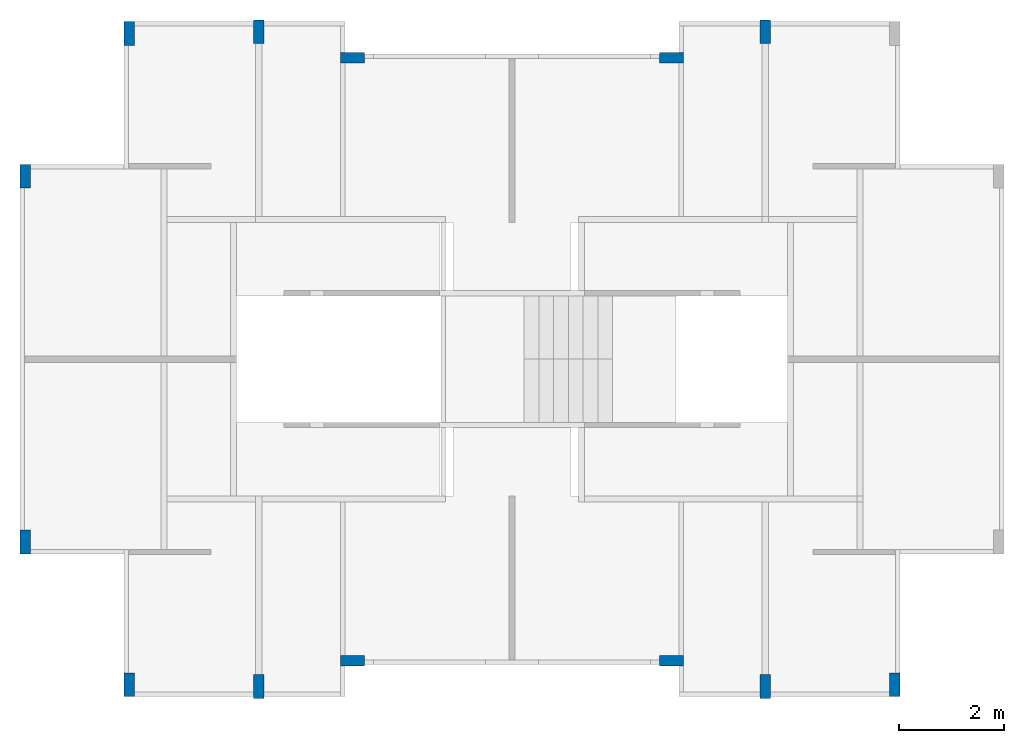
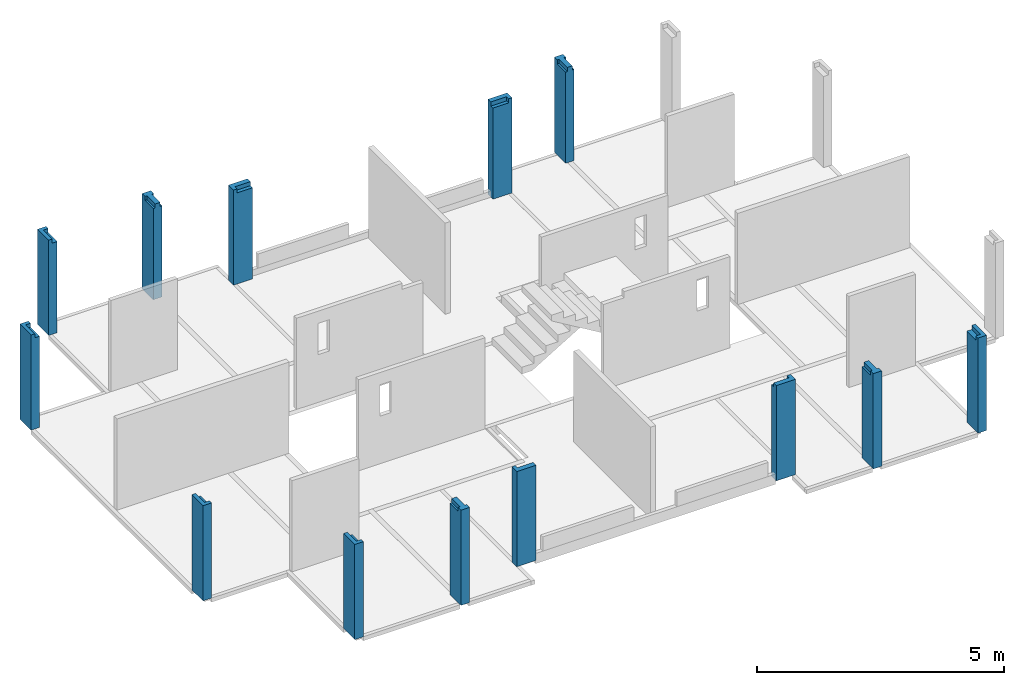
# One storey, part 5 of 6: 14 columns.
"""IFC4 building model written with IfcOpenShell, lengths in metres."""

from ifc_helpers import new_model, entity, si_unit, converted_unit, derived_unit, direction, frame, origin, place, context, subcontext, project, spatial, polygons, source, transform, mapped, material, type_object, type_shapes, element, save


model = new_model("IFC4")

# Units and contexts
model_context = context("Model", 3, precision=1e-05, world=origin(), true_north=direction((6.123031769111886e-17, 1.0)))
body_context = subcontext(model_context, "Body", "Model", "MODEL_VIEW")
ifc_project = project(units=[si_unit("LENGTHUNIT", "METRE"), si_unit("AREAUNIT", "SQUARE_METRE"), si_unit("VOLUMEUNIT", "CUBIC_METRE"), converted_unit("PLANEANGLEUNIT", "DEGREE", entity("IfcRatioMeasure", 0.017453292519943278), si_unit("PLANEANGLEUNIT", "RADIAN"), dimensions=[0, 0, 0, 0, 0, 0, 0]), si_unit("MASSUNIT", "GRAM", prefix="KILO"), derived_unit("MASSDENSITYUNIT", [(si_unit("MASSUNIT", "GRAM", prefix="KILO"), 1), (si_unit("LENGTHUNIT", "METRE"), -3)]), derived_unit("IONCONCENTRATIONUNIT", [(si_unit("MASSUNIT", "GRAM", prefix="KILO"), 1), (si_unit("LENGTHUNIT", "METRE"), -3)]), derived_unit("MOMENTOFINERTIAUNIT", [(si_unit("LENGTHUNIT", "METRE"), 4)]), si_unit("TIMEUNIT", "SECOND"), si_unit("FREQUENCYUNIT", "HERTZ"), si_unit("THERMODYNAMICTEMPERATUREUNIT", "DEGREE_CELSIUS"), derived_unit("THERMALTRANSMITTANCEUNIT", [(si_unit("MASSUNIT", "GRAM", prefix="KILO"), 1), (si_unit("THERMODYNAMICTEMPERATUREUNIT", "KELVIN"), -1), (si_unit("TIMEUNIT", "SECOND"), -3)]), derived_unit("THERMALCONDUCTANCEUNIT", [(si_unit("MASSUNIT", "GRAM", prefix="KILO"), 1), (si_unit("THERMODYNAMICTEMPERATUREUNIT", "KELVIN"), -1), (si_unit("TIMEUNIT", "SECOND"), -3), (si_unit("LENGTHUNIT", "METRE"), 1)]), derived_unit("VOLUMETRICFLOWRATEUNIT", [(si_unit("LENGTHUNIT", "METRE"), 3), (si_unit("TIMEUNIT", "SECOND"), -1)]), derived_unit("MASSFLOWRATEUNIT", [(si_unit("MASSUNIT", "GRAM", prefix="KILO"), 1), (si_unit("TIMEUNIT", "SECOND"), -1)]), derived_unit("ROTATIONALFREQUENCYUNIT", [(si_unit("TIMEUNIT", "SECOND"), -1)]), si_unit("ELECTRICCURRENTUNIT", "AMPERE"), si_unit("ELECTRICVOLTAGEUNIT", "VOLT"), si_unit("POWERUNIT", "WATT"), si_unit("FORCEUNIT", "NEWTON", prefix="KILO"), si_unit("ILLUMINANCEUNIT", "LUX"), si_unit("LUMINOUSFLUXUNIT", "LUMEN"), si_unit("LUMINOUSINTENSITYUNIT", "CANDELA"), derived_unit("USERDEFINED", [(si_unit("MASSUNIT", "GRAM", prefix="KILO"), -1), (si_unit("LENGTHUNIT", "METRE"), -2), (si_unit("TIMEUNIT", "SECOND"), 3), (si_unit("LUMINOUSFLUXUNIT", "LUMEN"), 1)]), derived_unit("USERDEFINED", [(si_unit("MASSUNIT", "GRAM", prefix="KILO"), 1), (si_unit("TIMEUNIT", "SECOND"), -3), (si_unit("LENGTHUNIT", "METRE"), 3), (si_unit("ELECTRICCURRENTUNIT", "AMPERE"), -2)]), derived_unit("SOUNDPOWERUNIT", [(si_unit("MASSUNIT", "GRAM", prefix="KILO"), 1), (si_unit("TIMEUNIT", "SECOND"), -3), (si_unit("LENGTHUNIT", "METRE"), 2)]), derived_unit("SOUNDPRESSUREUNIT", [(si_unit("MASSUNIT", "GRAM", prefix="KILO"), 1), (si_unit("LENGTHUNIT", "METRE"), -1), (si_unit("TIMEUNIT", "SECOND"), -2)]), derived_unit("LINEARVELOCITYUNIT", [(si_unit("LENGTHUNIT", "METRE"), 1), (si_unit("TIMEUNIT", "SECOND"), -1)]), si_unit("PRESSUREUNIT", "PASCAL"), derived_unit("USERDEFINED", [(si_unit("MASSUNIT", "GRAM", prefix="KILO"), 1), (si_unit("LENGTHUNIT", "METRE"), -2), (si_unit("TIMEUNIT", "SECOND"), -2)]), derived_unit("LINEARFORCEUNIT", [(si_unit("MASSUNIT", "GRAM", prefix="KILO"), 1), (si_unit("TIMEUNIT", "SECOND"), -2)]), derived_unit("PLANARFORCEUNIT", [(si_unit("MASSUNIT", "GRAM", prefix="KILO"), 1), (si_unit("LENGTHUNIT", "METRE"), -1), (si_unit("TIMEUNIT", "SECOND"), -2)]), derived_unit("SPECIFICHEATCAPACITYUNIT", [(si_unit("THERMODYNAMICTEMPERATUREUNIT", "KELVIN"), -1), (si_unit("LENGTHUNIT", "METRE"), 2), (si_unit("TIMEUNIT", "SECOND"), -2)]), derived_unit("HEATINGVALUEUNIT", [(si_unit("LENGTHUNIT", "METRE"), 2), (si_unit("TIMEUNIT", "SECOND"), -2)]), derived_unit("VAPORPERMEABILITYUNIT", [(si_unit("LENGTHUNIT", "METRE"), -1), (si_unit("TIMEUNIT", "SECOND"), 1)]), derived_unit("DYNAMICVISCOSITYUNIT", [(si_unit("MASSUNIT", "GRAM", prefix="KILO"), 1), (si_unit("TIMEUNIT", "SECOND"), -1), (si_unit("LENGTHUNIT", "METRE"), -1)]), derived_unit("THERMALEXPANSIONCOEFFICIENTUNIT", [(si_unit("THERMODYNAMICTEMPERATUREUNIT", "KELVIN"), -1)]), derived_unit("MODULUSOFELASTICITYUNIT", [(si_unit("MASSUNIT", "GRAM", prefix="KILO"), 1), (si_unit("LENGTHUNIT", "METRE"), -1), (si_unit("TIMEUNIT", "SECOND"), -2)]), derived_unit("ISOTHERMALMOISTURECAPACITYUNIT", [(si_unit("LENGTHUNIT", "METRE"), 3), (si_unit("MASSUNIT", "GRAM", prefix="KILO"), -1)]), derived_unit("MOISTUREDIFFUSIVITYUNIT", [(si_unit("TIMEUNIT", "SECOND"), -1), (si_unit("LENGTHUNIT", "METRE"), 2)])], contexts=[model_context])

# Site, building, storey
site_placement = place(None, origin())
site = spatial("IfcSite", under=ifc_project, at=site_placement, Name="Default", CompositionType="ELEMENT")
building_placement = place(site_placement, origin())
building = spatial("IfcBuilding", under=site, at=building_placement, Name="Las nubes", CompositionType="ELEMENT")
storey_placement = place(building_placement, frame((0.0, 0.0, 7.050000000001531)))
storey = spatial("IfcBuildingStorey", under=building, at=storey_placement, Name="PISO 4", CompositionType="ELEMENT", Elevation=7.050000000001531)

# Columns
ifc_material = material(Name="Concrete, Cast-in-Place gray", Category="Materials")
column_type_1 = type_object("IfcColumnType", Name="M_Concrete-Rectangular-Column:300 x 450mm", PredefinedType="COLUMN", material=ifc_material)
shared_shape_1 = source(origin(), body_context, "Body", "Tessellation", [
    polygons([(0.19999999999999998, 0.45000000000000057, 0.0), (0.19999999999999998, 5.414335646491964e-16, 0.0), (0.0, 5.414335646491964e-16, 0.0), (0.0, 0.45000000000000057, 0.0), (0.19999999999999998, 0.45000000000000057, 2.250000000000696), (0.19999999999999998, 0.45000000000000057, 2.3500000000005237), (0.19999999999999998, 0.36499999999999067, 2.3500000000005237), (0.19999999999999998, 0.36499999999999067, 2.250000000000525), (0.19999999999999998, 5.414335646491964e-16, 2.250000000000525), (0.08499999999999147, 5.414335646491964e-16, 2.250000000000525), (0.08499999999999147, 5.414335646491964e-16, 2.3500000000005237), (0.0, 5.414335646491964e-16, 2.3500000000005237), (0.0, 5.414335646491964e-16, 2.250000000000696), (0.0, 0.45000000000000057, 2.3500000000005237), (0.08499999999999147, 0.36499999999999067, 2.3500000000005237), (0.08499999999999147, 0.36499999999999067, 2.250000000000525)], [[[1, 2, 3, 4]], [[2, 1, 5, 6, 7, 8, 9]], [[3, 2, 9, 10, 11, 12, 13]], [[4, 3, 13, 12, 14]], [[1, 4, 14, 6, 5]], [[14, 12, 11, 15, 7, 6]], [[8, 16, 10, 9]], [[16, 15, 11, 10]], [[15, 16, 8, 7]]], closed=True),
])
type_shapes(column_type_1, [shared_shape_1])
column_1_placement = place(storey_placement, frame((-0.027499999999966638, -3.175000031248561, 0.0)))
element("IfcColumn", 1, at=column_1_placement, inside=storey, type_object=column_type_1, material=ifc_material, Name="M_Concrete-Rectangular-Column:300 x 450mm", ObjectType="M_Concrete-Rectangular-Column:300 x 450mm", PredefinedType="COLUMN", context=body_context, shape_type="MappedRepresentation", body=[
    mapped(shared_shape_1, transform((0.0, 0.0, 0.0), scale=1.0)),
])
column_type_2 = type_object("IfcColumnType", Name="M_Concrete-Rectangular-Column:300 x 450mm", PredefinedType="COLUMN", material=ifc_material)
shared_shape_2 = source(origin(), body_context, "Body", "Tessellation", [
    polygons([(0.19999999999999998, 0.45000000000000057, 0.0), (0.19999999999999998, 0.0, 0.0), (0.0, 0.0, 0.0), (0.0, 0.45000000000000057, 0.0), (0.19999999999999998, 0.45000000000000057, 2.250000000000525), (0.19999999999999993, 0.08499488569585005, 2.250000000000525), (0.19999999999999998, 0.08499488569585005, 2.3500000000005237), (0.19999999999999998, 0.0, 2.3500000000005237), (0.19999999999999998, 0.0, 2.250000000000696), (0.0, 0.0, 2.3500000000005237), (0.0, 0.45000000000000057, 2.3500000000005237), (0.0, 0.45000000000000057, 2.250000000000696), (0.08500000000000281, 0.45000000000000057, 2.3500000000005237), (0.08500000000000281, 0.45000000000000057, 2.250000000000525), (0.08500000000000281, 0.08499488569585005, 2.3500000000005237), (0.08500000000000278, 0.08499488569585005, 2.250000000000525)], [[[1, 2, 3, 4]], [[2, 1, 5, 6, 7, 8, 9]], [[3, 2, 9, 8, 10]], [[4, 3, 10, 11, 12]], [[1, 4, 12, 11, 13, 14, 5]], [[10, 8, 7, 15, 13, 11]], [[14, 16, 6, 5]], [[16, 15, 7, 6]], [[15, 16, 14, 13]]], closed=True),
])
type_shapes(column_type_2, [shared_shape_2])
column_2_placement = place(storey_placement, frame((-0.02749999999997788, -10.124994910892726, 0.0)))
element("IfcColumn", 2, at=column_2_placement, inside=storey, type_object=column_type_2, material=ifc_material, Name="M_Concrete-Rectangular-Column:300 x 450mm", ObjectType="M_Concrete-Rectangular-Column:300 x 450mm", PredefinedType="COLUMN", context=body_context, shape_type="MappedRepresentation", body=[
    mapped(shared_shape_2, transform((0.0, 0.0, 0.0), scale=1.0)),
])
column_type_3 = type_object("IfcColumnType", Name="M_Concrete-Rectangular-Column:300 x 450mm", PredefinedType="COLUMN", material=ifc_material)
shared_shape_3 = source(origin(), body_context, "Body", "Tessellation", [
    polygons([(0.2, 0.45, 0.0), (0.2, 6.767919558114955e-17, 0.0), (0.0, 6.767919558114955e-17, 0.0), (0.0, 0.45, 0.0), (0.2, 0.45, 2.3500000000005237), (0.2, 0.3649999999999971, 2.3500000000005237), (0.2, 0.3649999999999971, 2.250000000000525), (0.2, 6.767919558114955e-17, 2.250000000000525), (0.08500000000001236, 6.767919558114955e-17, 2.250000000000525), (0.08500000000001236, 6.767919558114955e-17, 2.3500000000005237), (0.0, 6.767919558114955e-17, 2.3500000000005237), (0.0, 6.767919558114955e-17, 2.250000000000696), (0.0, 0.45, 2.3500000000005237), (0.08500000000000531, 0.3649999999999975, 2.3500000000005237), (0.08500000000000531, 0.3649999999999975, 2.250000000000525)], [[[1, 2, 3, 4]], [[2, 1, 5, 6, 7, 8]], [[3, 2, 8, 9, 10, 11, 12]], [[4, 3, 12, 11, 13]], [[1, 4, 13, 5]], [[13, 11, 10, 14, 6, 5]], [[15, 9, 8, 7]], [[14, 15, 7, 6]], [[15, 14, 10, 9]]], closed=True),
])
type_shapes(column_type_3, [shared_shape_3])
column_3_placement = place(storey_placement, frame((1.94749999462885, -0.46000002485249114, 0.0)))
element("IfcColumn", 3, at=column_3_placement, inside=storey, type_object=column_type_3, material=ifc_material, Name="M_Concrete-Rectangular-Column:300 x 450mm", ObjectType="M_Concrete-Rectangular-Column:300 x 450mm", PredefinedType="COLUMN", context=body_context, shape_type="MappedRepresentation", body=[
    mapped(shared_shape_3, transform((0.0, 0.0, 0.0), scale=1.0)),
])
column_type_4 = type_object("IfcColumnType", Name="M_Concrete-Rectangular-Column:300 x 450mm", PredefinedType="COLUMN", material=ifc_material)
shared_shape_4 = source(origin(), body_context, "Body", "Tessellation", [
    polygons([(0.2, 0.45000000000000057, 0.0), (0.2, 6.09112760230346e-16, 0.0), (0.0, 6.09112760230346e-16, 0.0), (0.0, 0.45000000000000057, 0.0), (0.2, 0.45000000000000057, 2.3500000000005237), (0.2, 0.42002052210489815, 2.3500000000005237), (0.2, 0.3350000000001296, 2.3500000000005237), (0.2, 0.3350000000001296, 2.250000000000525), (0.2, 6.09112760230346e-16, 2.250000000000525), (0.15749999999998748, 3.383959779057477e-16, 2.250000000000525), (0.15749999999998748, 6.09112760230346e-16, 2.3500000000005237), (0.04249999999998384, 6.09112760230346e-16, 2.3500000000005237), (0.04249999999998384, 6.09112760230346e-16, 2.250000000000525), (0.0, 6.09112760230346e-16, 2.250000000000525), (0.0, 0.33500000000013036, 2.250000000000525), (0.0, 0.33500000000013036, 2.3500000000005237), (0.0, 0.4200205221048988, 2.3500000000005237), (0.0, 0.45000000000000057, 2.3500000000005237), (0.042499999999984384, 0.3350000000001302, 2.3500000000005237), (0.15749999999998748, 0.3350000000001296, 2.3500000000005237), (0.042499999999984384, 0.3350000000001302, 2.250000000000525), (0.15749999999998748, 0.3350000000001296, 2.250000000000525)], [[[1, 2, 3, 4]], [[2, 1, 5, 6, 7, 8, 9]], [[3, 2, 9, 10, 11, 12, 13, 14]], [[4, 3, 14, 15, 16, 17, 18]], [[1, 4, 18, 5]], [[5, 18, 17, 16, 19, 12, 11, 20, 7, 6]], [[13, 21, 15, 14]], [[21, 19, 16, 15]], [[19, 21, 13, 12]], [[8, 22, 10, 9]], [[22, 20, 11, 10]], [[20, 22, 8, 7]]], closed=True),
])
type_shapes(column_type_4, [shared_shape_4])
column_4_placement = place(storey_placement, frame((4.409999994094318, -0.4300000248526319, 0.0)))
element("IfcColumn", 4, at=column_4_placement, inside=storey, type_object=column_type_4, material=ifc_material, Name="M_Concrete-Rectangular-Column:300 x 450mm", ObjectType="M_Concrete-Rectangular-Column:300 x 450mm", PredefinedType="COLUMN", context=body_context, shape_type="MappedRepresentation", body=[
    mapped(shared_shape_4, transform((0.0, 0.0, 0.0), scale=1.0)),
])
column_type_5 = type_object("IfcColumnType", Name="M_Concrete-Rectangular-Column:300 x 450mm", PredefinedType="COLUMN", material=ifc_material)
shared_shape_5 = source(origin(), body_context, "Body", "Tessellation", [
    polygons([(2.1657342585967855e-15, 0.20000000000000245, 0.0), (0.45000000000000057, 0.2, 0.0), (0.45000000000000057, 0.0, 0.0), (1.0828671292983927e-15, 2.436451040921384e-15, 0.0), (1.0828671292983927e-15, 0.20000000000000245, 2.250000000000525), (2.1657342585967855e-15, 0.20000000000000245, 2.3500000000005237), (0.08500000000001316, 0.2000000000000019, 2.3500000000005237), (0.45000000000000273, 0.2, 2.3500000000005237), (0.45000000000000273, 0.08500000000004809, 2.3500000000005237), (0.45000000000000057, 0.08500000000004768, 2.250000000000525), (0.45000000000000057, 0.0, 2.250000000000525), (0.08500000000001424, 1.7596590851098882e-15, 2.250000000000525), (0.08500000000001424, 2.0303758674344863e-15, 2.3500000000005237), (1.0828671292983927e-15, 2.436451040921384e-15, 2.3500000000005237), (1.0828671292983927e-15, 2.436451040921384e-15, 2.250000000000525), (0.08500000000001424, 0.08500000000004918, 2.3500000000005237), (0.08500000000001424, 0.08500000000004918, 2.250000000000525)], [[[1, 2, 3, 4]], [[2, 1, 5, 6, 7, 8]], [[3, 2, 8, 9, 10, 11]], [[4, 3, 11, 12, 13, 14, 15]], [[1, 4, 15, 14, 6, 5]], [[8, 7, 6, 14, 13, 16, 9]], [[10, 17, 12, 11]], [[17, 16, 13, 12]], [[16, 17, 10, 9]]], closed=True),
])
type_shapes(column_type_5, [shared_shape_5])
column_5_placement = place(storey_placement, frame((6.067499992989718, -0.7950000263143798, 0.0)))
element("IfcColumn", 5, at=column_5_placement, inside=storey, type_object=column_type_5, material=ifc_material, Name="M_Concrete-Rectangular-Column:300 x 450mm", ObjectType="M_Concrete-Rectangular-Column:300 x 450mm", PredefinedType="COLUMN", context=body_context, shape_type="MappedRepresentation", body=[
    mapped(shared_shape_5, transform((0.0, 0.0, 0.0), scale=1.0)),
])
column_type_6 = type_object("IfcColumnType", Name="M_Concrete-Rectangular-Column:300 x 450mm", PredefinedType="COLUMN", material=ifc_material)
shared_shape_6 = source(origin(), body_context, "Body", "Tessellation", [
    polygons([(0.0, 6.09112760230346e-16, 0.0), (0.0, 0.45000000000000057, 0.0), (0.2, 0.45000000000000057, 0.0), (0.2, 6.09112760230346e-16, 0.0), (0.0, 6.09112760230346e-16, 2.250000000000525), (0.0, 0.3350000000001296, 2.250000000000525), (0.0, 0.3350000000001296, 2.3500000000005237), (0.0, 0.41999999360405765, 2.3500000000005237), (0.0, 0.45000000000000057, 2.3500000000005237), (0.2, 6.09112760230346e-16, 2.250000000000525), (0.15749999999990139, 3.383959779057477e-16, 2.250000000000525), (0.15749999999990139, 5.414335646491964e-16, 2.3500000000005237), (0.04249999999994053, 6.09112760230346e-16, 2.3500000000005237), (0.04249999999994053, 3.383959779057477e-16, 2.250000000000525), (0.2, 0.45000000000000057, 2.3500000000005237), (0.2, 0.41999999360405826, 2.3500000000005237), (0.2, 0.33500000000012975, 2.3500000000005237), (0.2, 0.33500000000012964, 2.250000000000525), (0.04249999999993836, 0.3350000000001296, 2.3500000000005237), (0.15749999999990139, 0.3350000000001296, 2.3500000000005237), (0.04249999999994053, 0.3350000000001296, 2.250000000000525), (0.15749999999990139, 0.3350000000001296, 2.250000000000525)], [[[1, 2, 3, 4]], [[2, 1, 5, 6, 7, 8, 9]], [[1, 4, 10, 11, 12, 13, 14, 5]], [[4, 3, 15, 16, 17, 18, 10]], [[3, 2, 9, 15]], [[15, 9, 8, 7, 19, 13, 12, 20, 17, 16]], [[14, 21, 6, 5]], [[21, 19, 7, 6]], [[19, 21, 14, 13]], [[18, 22, 11, 10]], [[20, 22, 18, 17]], [[22, 20, 12, 11]]], closed=True),
])
type_shapes(column_type_6, [shared_shape_6])
column_6_placement = place(storey_placement, frame((14.035000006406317, -0.4300000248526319, 0.0)))
element("IfcColumn", 6, at=column_6_placement, inside=storey, type_object=column_type_6, material=ifc_material, Name="M_Concrete-Rectangular-Column:300 x 450mm", ObjectType="M_Concrete-Rectangular-Column:300 x 450mm", PredefinedType="COLUMN", context=body_context, shape_type="MappedRepresentation", body=[
    mapped(shared_shape_6, transform((0.0, 0.0, 0.0), scale=1.0)),
])
column_type_7 = type_object("IfcColumnType", Name="M_Concrete-Rectangular-Column:300 x 450mm", PredefinedType="COLUMN", material=ifc_material)
shared_shape_7 = source(origin(), body_context, "Body", "Tessellation", [
    polygons([(0.0, 0.2, 0.0), (0.4500000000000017, 0.20000000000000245, 0.0), (0.4500000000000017, 2.436451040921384e-15, 0.0), (0.0, 0.0, 0.0), (0.0, 0.2, 2.3500000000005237), (0.364999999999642, 0.2000000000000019, 2.3500000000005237), (0.4500000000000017, 0.20000000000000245, 2.3500000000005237), (0.4500000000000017, 0.20000000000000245, 2.250000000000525), (0.0, 0.0, 2.250000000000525), (0.0, 0.08500000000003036, 2.250000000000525), (0.0, 0.08500000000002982, 2.3500000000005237), (0.4500000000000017, 2.436451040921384e-15, 2.250000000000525), (0.4500000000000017, 2.436451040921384e-15, 2.3500000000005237), (0.36499999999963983, 2.0303758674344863e-15, 2.3500000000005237), (0.36499999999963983, 2.1657342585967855e-15, 2.250000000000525), (0.36499999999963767, 0.08500000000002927, 2.3500000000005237), (0.36499999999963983, 0.08500000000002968, 2.250000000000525)], [[[1, 2, 3, 4]], [[2, 1, 5, 6, 7, 8]], [[1, 4, 9, 10, 11, 5]], [[4, 3, 12, 13, 14, 15, 9]], [[3, 2, 8, 7, 13, 12]], [[7, 6, 5, 11, 16, 14, 13]], [[15, 17, 10, 9]], [[17, 16, 11, 10]], [[16, 17, 15, 14]]], closed=True),
])
type_shapes(column_type_7, [shared_shape_7])
column_7_placement = place(storey_placement, frame((12.127500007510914, -0.7950000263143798, 0.0)))
element("IfcColumn", 7, at=column_7_placement, inside=storey, type_object=column_type_7, material=ifc_material, Name="M_Concrete-Rectangular-Column:300 x 450mm", ObjectType="M_Concrete-Rectangular-Column:300 x 450mm", PredefinedType="COLUMN", context=body_context, shape_type="MappedRepresentation", body=[
    mapped(shared_shape_7, transform((0.0, 0.0, 0.0), scale=1.0)),
])
column_type_8 = type_object("IfcColumnType", Name="M_Concrete-Rectangular-Column:300 x 450mm", PredefinedType="COLUMN", material=ifc_material)
shared_shape_8 = source(origin(), body_context, "Body", "Tessellation", [
    polygons([(0.20000000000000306, 0.4500000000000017, 0.0), (0.19999999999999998, 2.1657342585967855e-15, 0.0), (4.229949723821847e-18, 2.1657342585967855e-15, 0.0), (3.0794033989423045e-15, 0.4500000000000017, 0.0), (0.20000000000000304, 0.45000000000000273, 2.250000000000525), (0.2000000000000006, 0.08499999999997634, 2.250000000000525), (0.2000000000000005, 0.08499999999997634, 2.3500000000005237), (0.19999999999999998, 0.0, 2.3500000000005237), (3.0751734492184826e-15, 0.45000000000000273, 2.250000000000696), (3.0794033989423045e-15, 0.4500000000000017, 2.3500000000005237), (0.08500000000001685, 0.4500000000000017, 2.3500000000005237), (0.08500000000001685, 0.4500000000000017, 2.250000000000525), (4.229949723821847e-18, 2.1657342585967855e-15, 2.3500000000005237), (0.08500000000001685, 0.08499999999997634, 2.3500000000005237), (0.08500000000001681, 0.08499999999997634, 2.250000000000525)], [[[1, 2, 3, 4]], [[2, 1, 5, 6, 7, 8]], [[1, 4, 9, 10, 11, 12, 5]], [[4, 3, 13, 10, 9]], [[3, 2, 8, 13]], [[10, 13, 8, 7, 14, 11]], [[12, 15, 6, 5]], [[15, 14, 7, 6]], [[14, 15, 12, 11]]], closed=True),
])
type_shapes(column_type_8, [shared_shape_8])
column_8_placement = place(storey_placement, frame((-0.027499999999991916, -10.125000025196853, 0.0)))
element("IfcColumn", 8, at=column_8_placement, inside=storey, type_object=column_type_8, material=ifc_material, Name="M_Concrete-Rectangular-Column:300 x 450mm", ObjectType="M_Concrete-Rectangular-Column:300 x 450mm", PredefinedType="COLUMN", context=body_context, shape_type="MappedRepresentation", body=[
    mapped(shared_shape_8, transform((0.0, 0.0, 0.0), scale=1.0)),
])
column_type_9 = type_object("IfcColumnType", Name="M_Concrete-Rectangular-Column:300 x 450mm", PredefinedType="COLUMN", material=ifc_material)
shared_shape_9 = source(origin(), body_context, "Body", "Tessellation", [
    polygons([(0.20000000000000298, 0.4500000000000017, 0.0), (0.19999999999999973, 0.0, 0.0), (-2.707167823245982e-16, 2.1657342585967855e-15, 0.0), (2.97788460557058e-15, 0.4500000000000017, 0.0), (0.20000000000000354, 0.45000000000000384, 2.250000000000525), (0.20000000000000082, 0.08499999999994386, 2.250000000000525), (0.20000000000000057, 0.08499999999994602, 2.3500000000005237), (0.19999999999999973, 0.0, 2.3500000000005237), (0.2, 2.1657342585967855e-15, 2.250000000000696), (3.2486013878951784e-15, 0.45000000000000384, 2.250000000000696), (2.97788460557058e-15, 0.4500000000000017, 2.3500000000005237), (0.08500000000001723, 0.4500000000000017, 2.3500000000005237), (0.08500000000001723, 0.45000000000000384, 2.250000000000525), (-2.707167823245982e-16, 2.1657342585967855e-15, 2.3500000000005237), (0.08500000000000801, 0.08499999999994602, 2.3500000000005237), (0.08500000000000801, 0.08499999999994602, 2.250000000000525)], [[[1, 2, 3, 4]], [[2, 1, 5, 6, 7, 8, 9]], [[1, 4, 10, 11, 12, 13, 5]], [[4, 3, 14, 11, 10]], [[3, 2, 9, 8, 14]], [[11, 14, 8, 7, 15, 12]], [[16, 6, 5, 13]], [[16, 15, 7, 6]], [[15, 16, 13, 12]]], closed=True),
])
type_shapes(column_type_9, [shared_shape_9])
column_9_placement = place(storey_placement, frame((1.9474999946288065, -12.840000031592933, 0.0)))
element("IfcColumn", 9, at=column_9_placement, inside=storey, type_object=column_type_9, material=ifc_material, Name="M_Concrete-Rectangular-Column:300 x 450mm", ObjectType="M_Concrete-Rectangular-Column:300 x 450mm", PredefinedType="COLUMN", context=body_context, shape_type="MappedRepresentation", body=[
    mapped(shared_shape_9, transform((0.0, 0.0, 0.0), scale=1.0)),
])
column_type_10 = type_object("IfcColumnType", Name="M_Concrete-Rectangular-Column:300 x 450mm", PredefinedType="COLUMN", material=ifc_material)
shared_shape_10 = source(origin(), body_context, "Body", "Tessellation", [
    polygons([(0.20000000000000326, 0.4499999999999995, 0.0), (0.2, -2.1657342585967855e-15, 0.0), (0.0, 0.0, 0.0), (3.2486013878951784e-15, 0.4499999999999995, 0.0), (0.20000000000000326, 0.4499999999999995, 2.250000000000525), (0.2000000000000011, 0.11499999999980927, 2.250000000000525), (0.20000000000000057, 0.11499999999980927, 2.3500000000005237), (0.2, 0.029999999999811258, 2.3500000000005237), (0.2, -2.1657342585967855e-15, 2.3500000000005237), (3.2486013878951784e-15, 0.4499999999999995, 2.250000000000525), (0.042499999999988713, 0.4500000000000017, 2.250000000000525), (0.04249999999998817, 0.4499999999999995, 2.3500000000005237), (0.15750000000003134, 0.4499999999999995, 2.3500000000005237), (0.15750000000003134, 0.4500000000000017, 2.250000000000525), (0.0, 0.0, 2.3500000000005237), (0.0, 0.029999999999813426, 2.3500000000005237), (5.414335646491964e-16, 0.1149999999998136, 2.3500000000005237), (5.414335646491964e-16, 0.1149999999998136, 2.250000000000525), (0.15750000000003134, 0.11499999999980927, 2.3500000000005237), (0.04249999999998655, 0.1149999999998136, 2.3500000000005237), (0.04249999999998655, 0.1149999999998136, 2.250000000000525), (0.15750000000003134, 0.11499999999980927, 2.250000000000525)], [[[1, 2, 3, 4]], [[2, 1, 5, 6, 7, 8, 9]], [[1, 4, 10, 11, 12, 13, 14, 5]], [[4, 3, 15, 16, 17, 18, 10]], [[3, 2, 9, 15]], [[15, 9, 8, 7, 19, 13, 12, 20, 17, 16]], [[18, 21, 11, 10]], [[20, 21, 18, 17]], [[21, 20, 12, 11]], [[14, 22, 6, 5]], [[22, 19, 7, 6]], [[19, 22, 14, 13]]], closed=True),
])
type_shapes(column_type_10, [shared_shape_10])
column_10_placement = place(storey_placement, frame((4.4099999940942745, -12.870000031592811, 0.0)))
element("IfcColumn", 10, at=column_10_placement, inside=storey, type_object=column_type_10, material=ifc_material, Name="M_Concrete-Rectangular-Column:300 x 450mm", ObjectType="M_Concrete-Rectangular-Column:300 x 450mm", PredefinedType="COLUMN", context=body_context, shape_type="MappedRepresentation", body=[
    mapped(shared_shape_10, transform((0.0, 0.0, 0.0), scale=1.0)),
])
column_type_11 = type_object("IfcColumnType", Name="M_Concrete-Rectangular-Column:300 x 450mm", PredefinedType="COLUMN", material=ifc_material)
shared_shape_11 = source(origin(), body_context, "Body", "Tessellation", [
    polygons([(0.4499999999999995, 0.0, 0.0), (0.0, 0.0, 0.0), (0.0, 0.2, 0.0), (0.4499999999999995, 0.2, 0.0), (0.4499999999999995, 0.0, 2.3500000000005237), (0.08500000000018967, 0.0, 2.3500000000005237), (0.0, 0.0, 2.3500000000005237), (0.0, 0.0, 2.250000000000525), (0.4499999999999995, 0.2, 2.250000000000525), (0.4499999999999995, 0.11500000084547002, 2.250000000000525), (0.4499999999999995, 0.11500000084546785, 2.3500000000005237), (0.0, 0.2, 2.250000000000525), (0.0, 0.2, 2.3500000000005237), (0.08500000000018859, 0.2, 2.3500000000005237), (0.08500000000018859, 0.2, 2.250000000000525), (0.08500000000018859, 0.11500000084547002, 2.3500000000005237), (0.08500000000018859, 0.11500000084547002, 2.250000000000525)], [[[1, 2, 3, 4]], [[2, 1, 5, 6, 7, 8]], [[1, 4, 9, 10, 11, 5]], [[4, 3, 12, 13, 14, 15, 9]], [[3, 2, 8, 7, 13, 12]], [[7, 6, 5, 11, 16, 14, 13]], [[15, 17, 10, 9]], [[17, 16, 11, 10]], [[16, 17, 15, 14]]], closed=True),
])
type_shapes(column_type_11, [shared_shape_11])
column_11_placement = place(storey_placement, frame((6.067499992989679, -12.255000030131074, 0.0)))
element("IfcColumn", 11, at=column_11_placement, inside=storey, type_object=column_type_11, material=ifc_material, Name="M_Concrete-Rectangular-Column:300 x 450mm", ObjectType="M_Concrete-Rectangular-Column:300 x 450mm", PredefinedType="COLUMN", context=body_context, shape_type="MappedRepresentation", body=[
    mapped(shared_shape_11, transform((0.0, 0.0, 0.0), scale=1.0)),
])
column_type_12 = type_object("IfcColumnType", Name="M_Concrete-Rectangular-Column:300 x 450mm", PredefinedType="COLUMN", material=ifc_material)
shared_shape_12 = source(origin(), body_context, "Body", "Tessellation", [
    polygons([(0.0, 0.0, 0.0), (2.1657342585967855e-15, 0.4499999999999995, 0.0), (0.20000000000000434, 0.4499999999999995, 0.0), (0.2, -2.1657342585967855e-15, 0.0), (0.0, 0.0, 2.3500000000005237), (0.0, 0.08500000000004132, 2.3500000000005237), (2.1657342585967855e-15, 0.08500000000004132, 2.250000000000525), (6.497202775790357e-15, 0.4499999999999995, 2.250000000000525), (0.11499999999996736, 0.4499999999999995, 2.250000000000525), (0.11499999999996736, 0.4499999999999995, 2.3500000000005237), (0.2, 0.44999999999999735, 2.3500000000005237), (0.20000000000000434, 0.4499999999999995, 2.250000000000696), (0.2, -2.1657342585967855e-15, 2.3500000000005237), (0.11499999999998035, 0.08500000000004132, 2.3500000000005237), (0.11499999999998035, 0.08500000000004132, 2.250000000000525)], [[[1, 2, 3, 4]], [[2, 1, 5, 6, 7, 8]], [[3, 2, 8, 9, 10, 11, 12]], [[4, 3, 12, 11, 13]], [[1, 4, 13, 5]], [[13, 11, 10, 14, 6, 5]], [[15, 9, 8, 7]], [[14, 15, 7, 6]], [[15, 14, 10, 9]]], closed=True),
])
type_shapes(column_type_12, [shared_shape_12])
column_12_placement = place(storey_placement, frame((16.497500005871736, -12.84000003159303, 0.0)))
element("IfcColumn", 12, at=column_12_placement, inside=storey, type_object=column_type_12, material=ifc_material, Name="M_Concrete-Rectangular-Column:300 x 450mm", ObjectType="M_Concrete-Rectangular-Column:300 x 450mm", PredefinedType="COLUMN", context=body_context, shape_type="MappedRepresentation", body=[
    mapped(shared_shape_12, transform((0.0, 0.0, 0.0), scale=1.0)),
])
column_type_13 = type_object("IfcColumnType", Name="M_Concrete-Rectangular-Column:300 x 450mm", PredefinedType="COLUMN", material=ifc_material)
shared_shape_13 = source(origin(), body_context, "Body", "Tessellation", [
    polygons([(0.0, 0.0, 0.0), (2.1657342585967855e-15, 0.4499999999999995, 0.0), (0.20000000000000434, 0.4499999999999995, 0.0), (0.2, -2.1657342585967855e-15, 0.0), (0.0, 0.0, 2.3500000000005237), (0.0, 0.030001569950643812, 2.3500000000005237), (0.0, 0.11499999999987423, 2.3500000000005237), (2.1657342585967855e-15, 0.11499999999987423, 2.250000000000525), (6.497202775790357e-15, 0.4499999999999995, 2.250000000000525), (0.04249999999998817, 0.4499999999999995, 2.250000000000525), (0.04249999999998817, 0.4499999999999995, 2.3500000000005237), (0.15749999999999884, 0.44999999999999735, 2.3500000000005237), (0.15749999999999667, 0.4499999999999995, 2.250000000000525), (0.20000000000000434, 0.4499999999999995, 2.250000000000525), (0.2, 0.11499999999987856, 2.250000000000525), (0.2, 0.11499999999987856, 2.3500000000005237), (0.2, 0.03000156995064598, 2.3500000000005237), (0.2, -2.1657342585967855e-15, 2.3500000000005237), (0.15749999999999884, 0.11499999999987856, 2.3500000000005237), (0.04249999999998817, 0.11499999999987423, 2.3500000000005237), (0.04249999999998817, 0.11499999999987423, 2.250000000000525), (0.15749999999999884, 0.11499999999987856, 2.250000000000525)], [[[1, 2, 3, 4]], [[2, 1, 5, 6, 7, 8, 9]], [[3, 2, 9, 10, 11, 12, 13, 14]], [[4, 3, 14, 15, 16, 17, 18]], [[1, 4, 18, 5]], [[5, 18, 17, 16, 19, 12, 11, 20, 7, 6]], [[21, 10, 9, 8]], [[20, 21, 8, 7]], [[21, 20, 11, 10]], [[13, 22, 15, 14]], [[22, 19, 16, 15]], [[19, 22, 13, 12]]], closed=True),
])
type_shapes(column_type_13, [shared_shape_13])
column_13_placement = place(storey_placement, frame((14.035000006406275, -12.870000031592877, 0.0)))
element("IfcColumn", 13, at=column_13_placement, inside=storey, type_object=column_type_13, material=ifc_material, Name="M_Concrete-Rectangular-Column:300 x 450mm", ObjectType="M_Concrete-Rectangular-Column:300 x 450mm", PredefinedType="COLUMN", context=body_context, shape_type="MappedRepresentation", body=[
    mapped(shared_shape_13, transform((0.0, 0.0, 0.0), scale=1.0)),
])
column_type_14 = type_object("IfcColumnType", Name="M_Concrete-Rectangular-Column:300 x 450mm", PredefinedType="COLUMN", material=ifc_material)
shared_shape_14 = source(origin(), body_context, "Body", "Tessellation", [
    polygons([(0.45000000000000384, 0.0, 0.0), (2.1657342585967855e-15, 6.497202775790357e-15, 0.0), (6.497202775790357e-15, 0.2000000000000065, 0.0), (0.450000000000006, 0.2, 0.0), (0.4500000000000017, 0.0, 2.250000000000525), (0.45000000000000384, 0.0, 2.3500000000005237), (0.3649999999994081, 0.0, 2.3500000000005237), (2.1657342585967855e-15, 6.497202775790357e-15, 2.3500000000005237), (4.331468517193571e-15, 0.1150000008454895, 2.3500000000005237), (4.331468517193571e-15, 0.1150000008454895, 2.250000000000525), (4.331468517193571e-15, 0.20000000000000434, 2.250000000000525), (0.36499999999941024, 0.20000000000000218, 2.250000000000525), (0.36499999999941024, 0.2, 2.3500000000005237), (0.450000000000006, 0.2, 2.3500000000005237), (0.450000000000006, 0.2, 2.250000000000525), (0.36499999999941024, 0.11500000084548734, 2.3500000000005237), (0.36499999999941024, 0.11500000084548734, 2.250000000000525)], [[[1, 2, 3, 4]], [[2, 1, 5, 6, 7, 8]], [[3, 2, 8, 9, 10, 11]], [[4, 3, 11, 12, 13, 14, 15]], [[1, 4, 15, 14, 6, 5]], [[8, 7, 6, 14, 13, 16, 9]], [[10, 17, 12, 11]], [[17, 16, 13, 12]], [[16, 17, 10, 9]]], closed=True),
])
type_shapes(column_type_14, [shared_shape_14])
column_14_placement = place(storey_placement, frame((12.127500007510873, -12.255000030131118, 0.0)))
element("IfcColumn", 14, at=column_14_placement, inside=storey, type_object=column_type_14, material=ifc_material, Name="M_Concrete-Rectangular-Column:300 x 450mm", ObjectType="M_Concrete-Rectangular-Column:300 x 450mm", PredefinedType="COLUMN", context=body_context, shape_type="MappedRepresentation", body=[
    mapped(shared_shape_14, transform((0.0, 0.0, 0.0), scale=1.0)),
])

save(model, "model.ifc")
